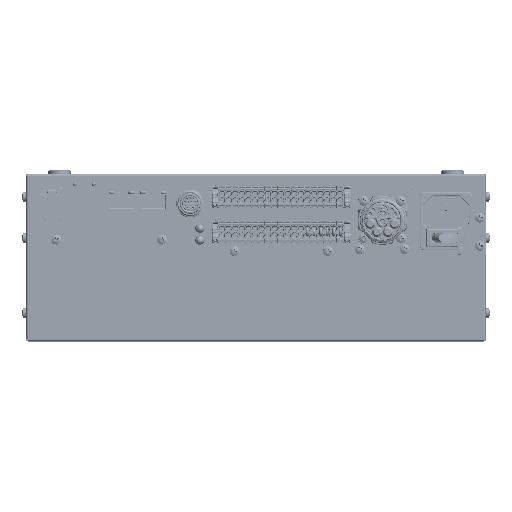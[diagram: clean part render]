
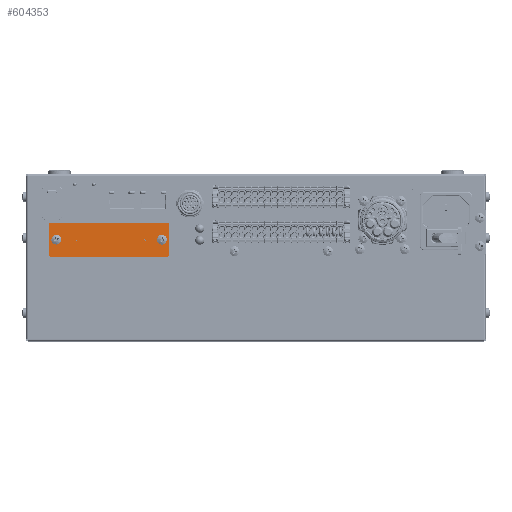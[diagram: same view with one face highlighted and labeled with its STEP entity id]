
A CAD part, top view. The second image highlights one B-rep face of the part: STEP entity #604353.
In plain terms, the highlighted planar face has unit normal (0, 0, 1).
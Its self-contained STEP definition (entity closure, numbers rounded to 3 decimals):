
#6897 = CIRCLE ( 'NONE', #219945, 1.6 ) ;
#40475 = AXIS2_PLACEMENT_3D ( 'NONE', #805077, #772179, #281209 ) ;
#44789 = CARTESIAN_POINT ( 'NONE',  ( 71.7, 1.55, 0.3 ) ) ;
#48250 = CARTESIAN_POINT ( 'NONE',  ( 8.5, 1.55, 0.3 ) ) ;
#83390 = DIRECTION ( 'NONE',  ( 0., 1., 0. ) ) ;
#90207 = CARTESIAN_POINT ( 'NONE',  ( 71.7, 9.55, 0.3 ) ) ;
#91929 = CARTESIAN_POINT ( 'NONE',  ( 13., 9.55, 0.3 ) ) ;
#97508 = ORIENTED_EDGE ( 'NONE', *, *, #328394, .F. ) ;
#110548 = ORIENTED_EDGE ( 'NONE', *, *, #867271, .F. ) ;
#114399 = ORIENTED_EDGE ( 'NONE', *, *, #937062, .F. ) ;
#121033 = ORIENTED_EDGE ( 'NONE', *, *, #542345, .F. ) ;
#121592 = VERTEX_POINT ( 'NONE', #523540 ) ;
#126148 = VERTEX_POINT ( 'NONE', #900132 ) ;
#126919 = DIRECTION ( 'NONE',  ( 0., 0., 1. ) ) ;
#132916 = AXIS2_PLACEMENT_3D ( 'NONE', #644051, #1003923, #562104 ) ;
#172564 = CARTESIAN_POINT ( 'NONE',  ( 8.5, 0.55, 0.3 ) ) ;
#190113 = CARTESIAN_POINT ( 'NONE',  ( 9.8, 9.55, 0.3 ) ) ;
#200852 = AXIS2_PLACEMENT_3D ( 'NONE', #977936, #126919, #388964 ) ;
#202307 = VERTEX_POINT ( 'NONE', #190113 ) ;
#219945 = AXIS2_PLACEMENT_3D ( 'NONE', #270192, #597273, #401188 ) ;
#234707 = ORIENTED_EDGE ( 'NONE', *, *, #686311, .F. ) ;
#243383 = ORIENTED_EDGE ( 'NONE', *, *, #515193, .F. ) ;
#244527 = DIRECTION ( 'NONE',  ( 1., 0., 0. ) ) ;
#248485 = VERTEX_POINT ( 'NONE', #869447 ) ;
#251905 = VERTEX_POINT ( 'NONE', #172564 ) ;
#256942 = CARTESIAN_POINT ( 'NONE',  ( 70.7, 1.55, 0.3 ) ) ;
#257302 = CARTESIAN_POINT ( 'NONE',  ( 70.7, 18.55, 0.3 ) ) ;
#262937 = VERTEX_POINT ( 'NONE', #44789 ) ;
#263752 = DIRECTION ( 'NONE',  ( 0., 0., -1. ) ) ;
#270192 = CARTESIAN_POINT ( 'NONE',  ( 67.8, 9.55, 0.3 ) ) ;
#270449 = CARTESIAN_POINT ( 'NONE',  ( 7.5, 18.55, 0.3 ) ) ;
#281209 = DIRECTION ( 'NONE',  ( 1., 0., 0. ) ) ;
#284269 = CARTESIAN_POINT ( 'NONE',  ( 8.5, 18.55, 0.3 ) ) ;
#287609 = VECTOR ( 'NONE', #244527, 1000. ) ;
#294137 = AXIS2_PLACEMENT_3D ( 'NONE', #270449, #565361, #925278 ) ;
#295245 = VECTOR ( 'NONE', #733001, 1000. ) ;
#295746 = CIRCLE ( 'NONE', #200852, 1.6 ) ;
#296495 = AXIS2_PLACEMENT_3D ( 'NONE', #879620, #263752, #869576 ) ;
#316966 = EDGE_CURVE ( 'NONE', #342402, #202307, #295746, .T. ) ;
#328394 = EDGE_CURVE ( 'NONE', #121592, #251905, #896918, .T. ) ;
#342402 = VERTEX_POINT ( 'NONE', #91929 ) ;
#366351 = VECTOR ( 'NONE', #83390, 1000. ) ;
#372488 = CIRCLE ( 'NONE', #748514, 1. ) ;
#384358 = VERTEX_POINT ( 'NONE', #284269 ) ;
#388964 = DIRECTION ( 'NONE',  ( 1., 0., 0. ) ) ;
#401188 = DIRECTION ( 'NONE',  ( 1., 0., 0. ) ) ;
#410692 = CARTESIAN_POINT ( 'NONE',  ( 7.5, 9.55, 0.3 ) ) ;
#412493 = ORIENTED_EDGE ( 'NONE', *, *, #786727, .F. ) ;
#445654 = CIRCLE ( 'NONE', #132916, 1.6 ) ;
#450538 = LINE ( 'NONE', #90207, #939651 ) ;
#450592 = FACE_BOUND ( 'NONE', #976389, .T. ) ;
#457654 = DIRECTION ( 'NONE',  ( 0., 0., -1. ) ) ;
#462537 = ORIENTED_EDGE ( 'NONE', *, *, #542929, .F. ) ;
#465249 = DIRECTION ( 'NONE',  ( 0., 0., -1. ) ) ;
#470022 = DIRECTION ( 'NONE',  ( 1., 0., 0. ) ) ;
#483632 = EDGE_CURVE ( 'NONE', #626931, #262937, #450538, .T. ) ;
#515193 = EDGE_CURVE ( 'NONE', #251905, #981883, #372488, .T. ) ;
#523540 = CARTESIAN_POINT ( 'NONE',  ( 70.7, 0.55, 0.3 ) ) ;
#542345 = EDGE_CURVE ( 'NONE', #262937, #121592, #863615, .T. ) ;
#542929 = EDGE_CURVE ( 'NONE', #202307, #342402, #660997, .T. ) ;
#548551 = FACE_OUTER_BOUND ( 'NONE', #868520, .T. ) ;
#562104 = DIRECTION ( 'NONE',  ( 1., 0., 0. ) ) ;
#565361 = DIRECTION ( 'NONE',  ( 0., 0., -1. ) ) ;
#581439 = FACE_BOUND ( 'NONE', #929955, .T. ) ;
#597273 = DIRECTION ( 'NONE',  ( 0., 0., 1. ) ) ;
#604353 = ADVANCED_FACE ( 'NONE', ( #450592, #581439, #548551 ), #630499, .F. ) ;
#609304 = CARTESIAN_POINT ( 'NONE',  ( 71.7, 17.55, 0.3 ) ) ;
#620688 = CARTESIAN_POINT ( 'NONE',  ( 39.6, 18.55, 0.3 ) ) ;
#621434 = DIRECTION ( 'NONE',  ( 1., 0., 0. ) ) ;
#626931 = VERTEX_POINT ( 'NONE', #609304 ) ;
#630499 = PLANE ( 'NONE',  #294137 ) ;
#633880 = DIRECTION ( 'NONE',  ( 0., 0., -1. ) ) ;
#641369 = EDGE_CURVE ( 'NONE', #126148, #384358, #766464, .T. ) ;
#644051 = CARTESIAN_POINT ( 'NONE',  ( 67.8, 9.55, 0.3 ) ) ;
#651162 = VERTEX_POINT ( 'NONE', #899128 ) ;
#660997 = CIRCLE ( 'NONE', #40475, 1.6 ) ;
#667357 = CARTESIAN_POINT ( 'NONE',  ( 7.5, 1.55, 0.3 ) ) ;
#667587 = ORIENTED_EDGE ( 'NONE', *, *, #641369, .F. ) ;
#681912 = AXIS2_PLACEMENT_3D ( 'NONE', #256942, #633880, #470022 ) ;
#683998 = CARTESIAN_POINT ( 'NONE',  ( 39.6, 0.55, 0.3 ) ) ;
#685568 = AXIS2_PLACEMENT_3D ( 'NONE', #776099, #465249, #743168 ) ;
#686311 = EDGE_CURVE ( 'NONE', #922235, #626931, #729436, .T. ) ;
#714154 = ORIENTED_EDGE ( 'NONE', *, *, #316966, .F. ) ;
#729436 = CIRCLE ( 'NONE', #685568, 1. ) ;
#733001 = DIRECTION ( 'NONE',  ( -1., 0., 0. ) ) ;
#743168 = DIRECTION ( 'NONE',  ( 1., 0., 0. ) ) ;
#748514 = AXIS2_PLACEMENT_3D ( 'NONE', #48250, #457654, #621434 ) ;
#766464 = CIRCLE ( 'NONE', #296495, 1. ) ;
#772179 = DIRECTION ( 'NONE',  ( 0., 0., 1. ) ) ;
#776099 = CARTESIAN_POINT ( 'NONE',  ( 70.7, 17.55, 0.3 ) ) ;
#784461 = LINE ( 'NONE', #620688, #287609 ) ;
#786727 = EDGE_CURVE ( 'NONE', #651162, #248485, #445654, .T. ) ;
#805077 = CARTESIAN_POINT ( 'NONE',  ( 11.4, 9.55, 0.3 ) ) ;
#827172 = DIRECTION ( 'NONE',  ( 0., -1., 0. ) ) ;
#847988 = EDGE_CURVE ( 'NONE', #248485, #651162, #6897, .T. ) ;
#853241 = LINE ( 'NONE', #410692, #366351 ) ;
#863615 = CIRCLE ( 'NONE', #681912, 1. ) ;
#867271 = EDGE_CURVE ( 'NONE', #384358, #922235, #784461, .T. ) ;
#868520 = EDGE_LOOP ( 'NONE', ( #234707, #110548, #667587, #114399, #243383, #97508, #121033, #877608 ) ) ;
#869447 = CARTESIAN_POINT ( 'NONE',  ( 69.4, 9.55, 0.3 ) ) ;
#869576 = DIRECTION ( 'NONE',  ( 1., 0., 0. ) ) ;
#877608 = ORIENTED_EDGE ( 'NONE', *, *, #483632, .F. ) ;
#879620 = CARTESIAN_POINT ( 'NONE',  ( 8.5, 17.55, 0.3 ) ) ;
#896918 = LINE ( 'NONE', #683998, #295245 ) ;
#899128 = CARTESIAN_POINT ( 'NONE',  ( 66.2, 9.55, 0.3 ) ) ;
#900132 = CARTESIAN_POINT ( 'NONE',  ( 7.5, 17.55, 0.3 ) ) ;
#922235 = VERTEX_POINT ( 'NONE', #257302 ) ;
#925278 = DIRECTION ( 'NONE',  ( 1., 0., 0. ) ) ;
#929955 = EDGE_LOOP ( 'NONE', ( #968894, #412493 ) ) ;
#937062 = EDGE_CURVE ( 'NONE', #981883, #126148, #853241, .T. ) ;
#939651 = VECTOR ( 'NONE', #827172, 1000. ) ;
#968894 = ORIENTED_EDGE ( 'NONE', *, *, #847988, .F. ) ;
#976389 = EDGE_LOOP ( 'NONE', ( #714154, #462537 ) ) ;
#977936 = CARTESIAN_POINT ( 'NONE',  ( 11.4, 9.55, 0.3 ) ) ;
#981883 = VERTEX_POINT ( 'NONE', #667357 ) ;
#1003923 = DIRECTION ( 'NONE',  ( 0., 0., 1. ) ) ;
